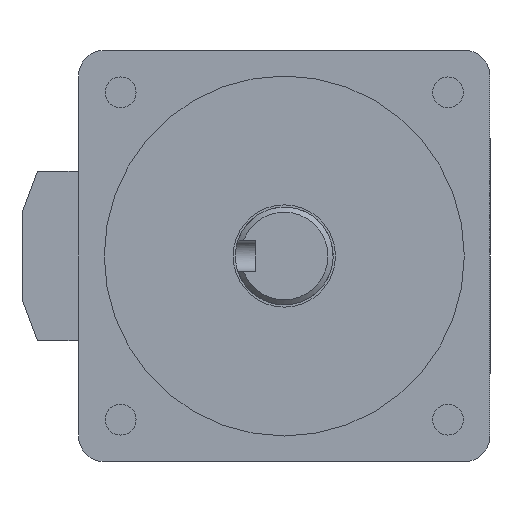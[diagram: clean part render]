
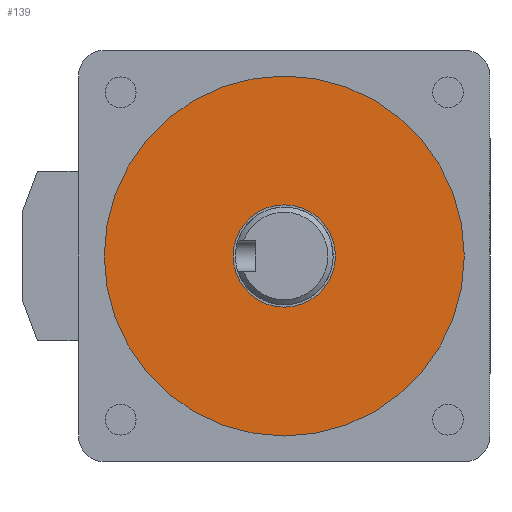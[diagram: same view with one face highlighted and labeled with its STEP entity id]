
A CAD part, left-side view. The second image highlights one B-rep face of the part: STEP entity #139.
In plain terms, the highlighted planar face has unit normal (-1, 0, 0).
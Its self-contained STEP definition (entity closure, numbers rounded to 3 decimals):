
#139=ADVANCED_FACE('',(#1225,#1227),#1229,.T.);
#1225=FACE_BOUND('',#1226,.T.);
#1226=EDGE_LOOP('',(#2085));
#1227=FACE_BOUND('',#1228,.T.);
#1228=EDGE_LOOP('',(#2086));
#1229=PLANE('',#1230);
#1230=AXIS2_PLACEMENT_3D('',#1231,#1232,#1233);
#1231=CARTESIAN_POINT('',(-3.,0.,0.));
#1232=DIRECTION('',(-1.,-0.,-0.));
#1233=DIRECTION('',(0.,0.,-1.));
#2085=ORIENTED_EDGE('',*,*,#2621,.T.);
#2086=ORIENTED_EDGE('',*,*,#2620,.F.);
#2620=EDGE_CURVE('',#2910,#2910,#2911,.T.);
#2621=EDGE_CURVE('',#2912,#2912,#2913,.T.);
#2910=VERTEX_POINT('',#3496);
#2911=CIRCLE('',#3497,9.95);
#2912=VERTEX_POINT('',#3501);
#2913=CIRCLE('',#3502,35.);
#3496=CARTESIAN_POINT('',(-3.,0.,-9.95));
#3497=AXIS2_PLACEMENT_3D('',#3498,#3499,#3500);
#3498=CARTESIAN_POINT('',(-3.,0.,0.));
#3499=DIRECTION('',(-1.,-0.,-0.));
#3500=DIRECTION('',(0.,0.,-1.));
#3501=CARTESIAN_POINT('',(-3.,0.,-35.));
#3502=AXIS2_PLACEMENT_3D('',#3503,#3504,#3505);
#3503=CARTESIAN_POINT('',(-3.,0.,0.));
#3504=DIRECTION('',(-1.,-0.,-0.));
#3505=DIRECTION('',(0.,0.,-1.));
